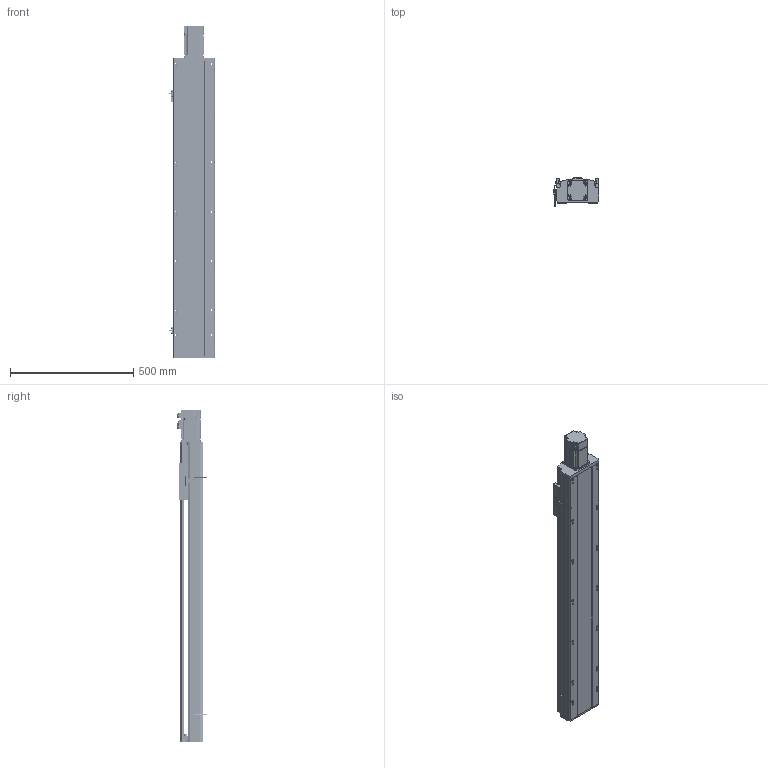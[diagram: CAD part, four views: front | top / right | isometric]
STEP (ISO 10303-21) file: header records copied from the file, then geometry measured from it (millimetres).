
FILE_DESCRIPTION (( 'STEP AP214' ), '1' );
FILE_NAME ('CTH170-950.STEP', '2019-11-25T09:02:10', ( '微软用户' ), ( '微软中国' ), 'SwSTEP 2.0', 'SolidWorks 2017', '' );
FILE_SCHEMA (( 'AUTOMOTIVE_DESIGN' ));
Length unit declared in the file: millimetre
Products named in the file (32): MISUMI_B7002-DB_盄俶絳砃粣; 170賑怢; BEARING_MISUMI_B7002-DB_盄俶絳砃粣; 170裔啣^CTH170-L10-200; 錨璃8^蚾饜极3_CTH170-L10-200; 錨璃2; 复件 轴承座^装配体3_CTH170-L10-200; 佪話盓傅釱^CTH170-L10-200; CTH170-950; M5-L16囀鞠褒蹟佪; 遣喳蝶15x12x8-BR L; 支撑座^丝杠支撑座_CTH170-L10-200; B6002Z; _C-BSST2005_n; SFS2005-411-SZC; SFH2010佪裝; M3-L8囀鞠褒蹟佪; 80EMA-016A; EE-SX672峚倰換覜ん; 170萇儂啣; CT17耀郪-覜茼んえ; 170傷啣; M6-L20囀鞠褒蹟佪; EGH20CA; 蚾饜极3^CTH170-L10-200; M5-L20囀鞠褒蹟佪-BR L; M4-L10囀鞠褒蹟佪-BR L; M5-L10囀鞠褒蹟佪; 坶踡蹟簽M15x1; EGH20CA_BLOCK; 潔路遠COL15-A; EG20_RAIL
Assembly tree (79 placements, depth 4):
  CTH170-950
    錨璃2
    170裔啣^CTH170-L10-200
    170賑怢
    EGH20CA  x2
      EG20_RAIL
      EGH20CA_BLOCK
      M5-L10囀鞠褒蹟佪
      M5-L20囀鞠褒蹟佪-BR L
    170傷啣
    170萇儂啣
    80EMA-016A
    SFS2005-411-SZC
      SFH2010佪裝
    _C-BSST2005_n
    佪話盓傅釱^CTH170-L10-200
      B6002Z
      支撑座^丝杠支撑座_CTH170-L10-200
      遣喳蝶15x12x8-BR L  x2
      M5-L16囀鞠褒蹟佪  x2
    蚾饜极3^CTH170-L10-200
      复件 轴承座^装配体3_CTH170-L10-200
      錨璃8^蚾饜极3_CTH170-L10-200
      MISUMI_B7002-DB_盄俶絳砃粣
        BEARING_MISUMI_B7002-DB_盄俶絳砃粣  x2
      潔路遠COL15-A  x2
      坶踡蹟簽M15x1
      M5-L16囀鞠褒蹟佪  x6
      M4-L10囀鞠褒蹟佪-BR L  x4
    遣喳蝶15x12x8-BR L  x2
    M6-L20囀鞠褒蹟佪  x4
    M4-L10囀鞠褒蹟佪-BR L  x10
    M5-L16囀鞠褒蹟佪  x4
    CT17耀郪-覜茼んえ
    EE-SX672峚倰換覜ん  x2
    M3-L8囀鞠褒蹟佪  x4
Bounding box: 183.7 x 117.95 x 1346 mm (x, y, z)
Volume: 7604223.5 mm3; surface area: 2367001.4 mm2
Topology: 91 solids, 92 shells, 5777 faces, 15211 edges, 9692 vertices
Faces by surface type: plane 3142, cylinder 1600, cone 653, bspline 342, torus 40
Entity records: 104748 total; most frequent: CARTESIAN_POINT 22233, ORIENTED_EDGE 15072, DIRECTION 14727, EDGE_CURVE 7536, AXIS2_PLACEMENT_3D 5168, VERTEX_POINT 4900, LINE 4391, VECTOR 4391
